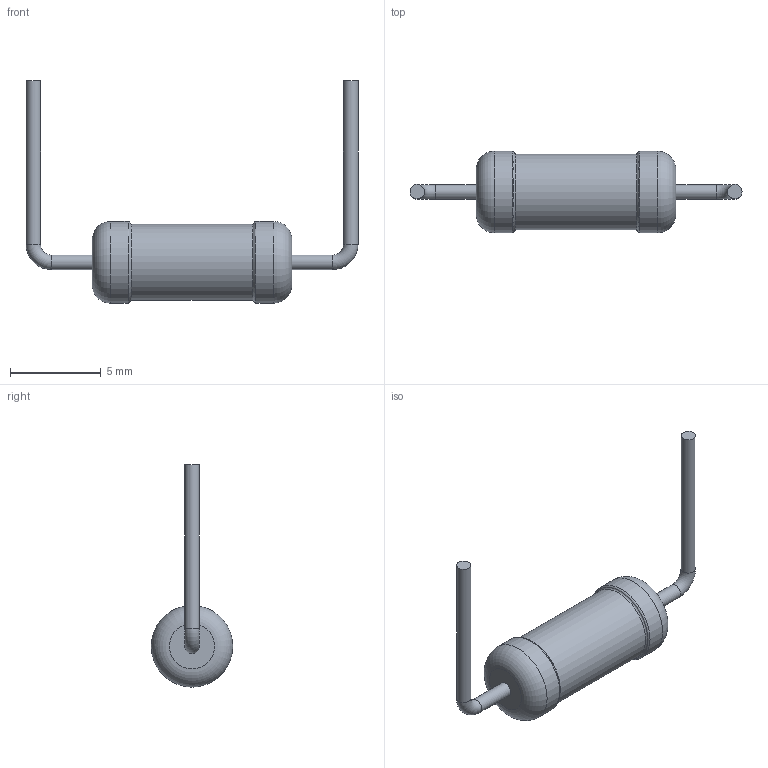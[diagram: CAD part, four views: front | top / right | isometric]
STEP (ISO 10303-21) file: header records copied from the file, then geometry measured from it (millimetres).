
FILE_DESCRIPTION(('STEP AP203'), '1');
FILE_NAME('Ñ2-29Â-0,25(2)', '', ('UNSPECIFIED'), ('UNSPECIFIED'), 'ASCON STEP Converter 1.6', 'ASCON Math Kernel', '');
FILE_SCHEMA(('CONFIG_CONTROL_DESIGN'));
Length unit declared in the file: millimetre
Bounding box: 18.3 x 4.5 x 12.25 mm (x, y, z)
Volume: 167.6 mm3; surface area: 234 mm2
Topology: 1 solids, 1 shells, 19 faces, 33 edges, 18 vertices
Faces by surface type: torus 8, cylinder 7, plane 4
Full cylindrical faces by diameter (mm): 0.8 x4, 4.184 x1, 4.5 x2
Entity records: 570 total; most frequent: DIRECTION 76, CARTESIAN_POINT 56, AXIS2_PLACEMENT_3D 38, EDGE_LOOP 36, ORIENTED_EDGE 36, FACE_OUTER_BOUND 30, COLOUR_RGB 20, FILL_AREA_STYLE_COLOUR 20
